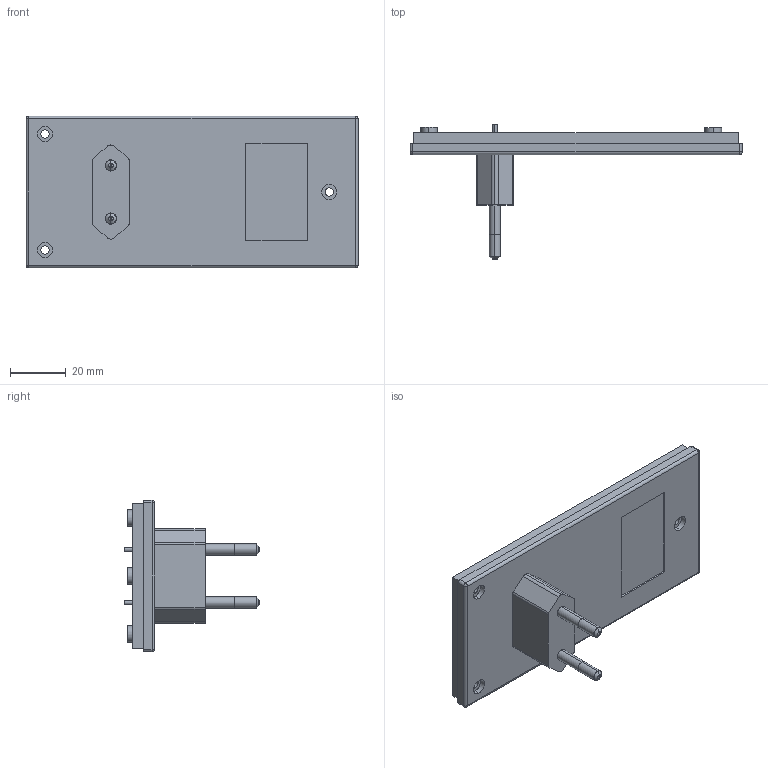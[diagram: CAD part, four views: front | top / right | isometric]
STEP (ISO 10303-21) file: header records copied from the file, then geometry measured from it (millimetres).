
FILE_DESCRIPTION (( 'STEP AP214' ), '1' );
FILE_NAME ('Tapa PP59.STEP', '2019-09-09T14:45:42', ( 'aaa' ), ( '' ), 'SwSTEP 2.0', 'SolidWorks 2014', '' );
FILE_SCHEMA (( 'AUTOMOTIVE_DESIGN' ));
Length unit declared in the file: millimetre
Products named in the file (1): Tapa PP59
Bounding box: 118.9 x 48.35 x 54.3 mm (x, y, z)
Volume: 21481.3 mm3; surface area: 22209.2 mm2
Topology: 3 solids, 3 shells, 160 faces, 349 edges, 222 vertices
Faces by surface type: cylinder 77, plane 67, torus 8, cone 4, sphere 4
Entity records: 4796 total; most frequent: DIRECTION 841, CARTESIAN_POINT 728, ORIENTED_EDGE 690, EDGE_CURVE 345, AXIS2_PLACEMENT_3D 335, VERTEX_POINT 222, EDGE_LOOP 197, CIRCLE 174
